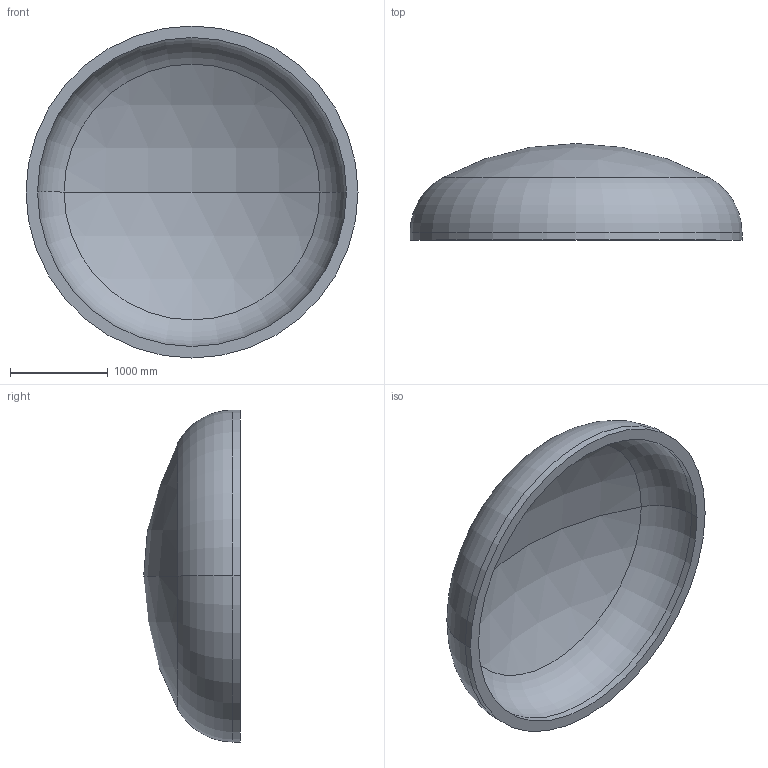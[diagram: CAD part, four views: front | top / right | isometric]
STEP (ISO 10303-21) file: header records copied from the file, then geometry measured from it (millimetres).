
FILE_DESCRIPTION (( 'STEP AP203' ), '1' );
FILE_NAME ('DIN 28013 Korbbogenform_-_Boden DIN 28013 - 3400 x 75 - I - s=118.step', '2016-07-01T19:58:28', ( '' ), ( '' ), 'SwSTEP 2.0', 'SolidWorks 2013', '' );
FILE_SCHEMA (( 'CONFIG_CONTROL_DESIGN' ));
Length unit declared in the file: millimetre
Products named in the file (1): DIN 28013 Korbbogenform_-_Boden DIN 28013 - 3400 x 75 - I - s=118
Bounding box: 3400 x 989.26 x 3400 mm (x, y, z)
Volume: 1510288339.8 mm3; surface area: 26843924.9 mm2
Topology: 1 solids, 1 shells, 13 faces, 24 edges, 14 vertices
Faces by surface type: torus 4, cylinder 4, sphere 4, plane 1
Entity records: 407 total; most frequent: DIRECTION 72, CARTESIAN_POINT 52, ORIENTED_EDGE 48, AXIS2_PLACEMENT_3D 34, EDGE_CURVE 24, CIRCLE 20, EDGE_LOOP 14, VERTEX_POINT 14
